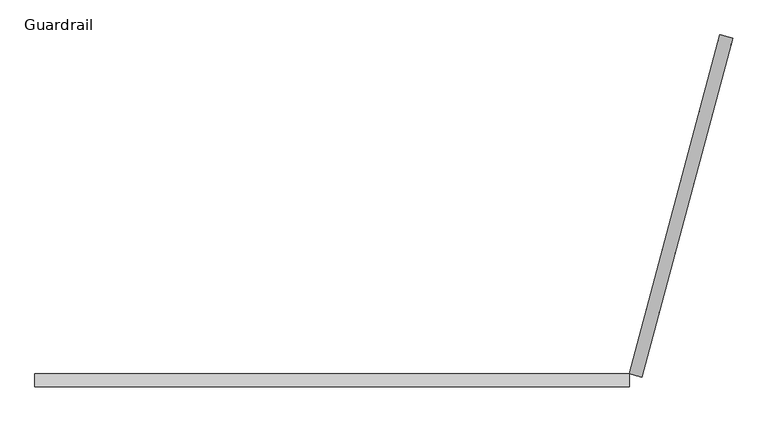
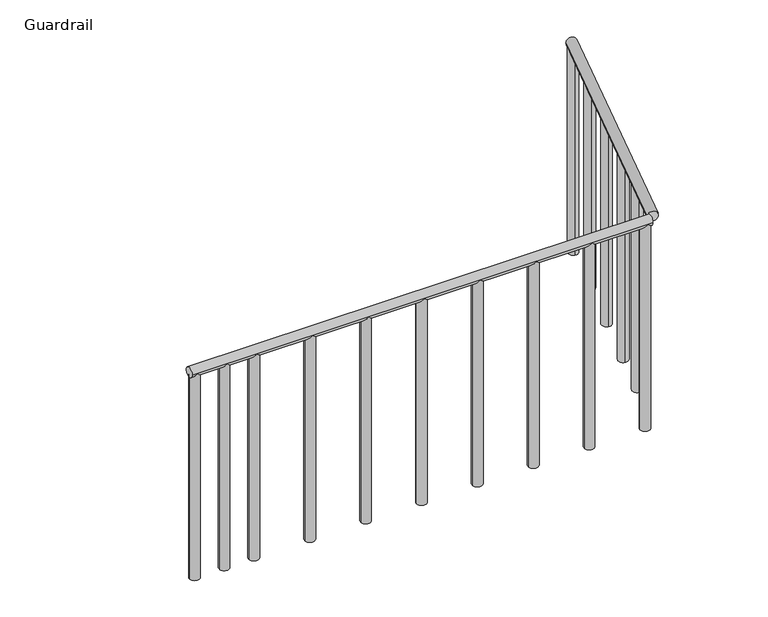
"""IFC4 building model written with IfcOpenShell, lengths in millimetres: railing geometry, Guardrail."""

from ifc_helpers import new_model, si_unit, frame, origin, place, context, project, spatial, circle_curve, ellipse_curve, source, transform, mapped, element, save
from ifc_brep_helpers import plane_surface, cylinder_surface, advanced_brep


def guardrail_706f17a5(model_context):
    return source(origin(), model_context, "Body", "AdvancedBrep", [
        advanced_brep(
        [(2223.940615, -4716.7615122, 8407.4), (2223.940615, -4665.9615122, 8407.4), (-79.7882773, -4716.7615122, 8407.4), (-79.7882773, -4665.9615122, 8407.4)],
        [
            (0, 1, circle_curve(frame((2223.940615, -4691.3615122, 8407.4), z_axis=(1.0, 0.0, 0.0), x_axis=(0.0, -1.0, 0.0)), 25.4)),
            (1, 0, circle_curve(frame((2223.940615, -4691.3615122, 8407.4), z_axis=(1.0, 0.0, 0.0), x_axis=(0.0, -1.0, 0.0)), 25.4)),
            (2, 3, circle_curve(frame((-79.7882773, -4691.3615122, 8407.4), z_axis=(-1.0, 0.0, 0.0), x_axis=(0.0, -1.0, 0.0)), 25.4)),
            (3, 2, circle_curve(frame((-79.7882773, -4691.3615122, 8407.4), z_axis=(-1.0, 0.0, 0.0), x_axis=(0.0, -1.0, 0.0)), 25.4)),
            (0, 2),
            (3, 1),
        ],
        [
            plane_surface(frame((2223.940615, -4716.7615122, 8382.0), z_axis=(1.0, 0.0, 0.0), x_axis=(0.0, 1.0, 0.0))),
            plane_surface(frame((-79.7882773, -4716.7615122, 8382.0), z_axis=(-1.0, 0.0, 0.0), x_axis=(0.0, -1.0, 0.0))),
            cylinder_surface(frame((-79.7882773, -4691.3615122, 8407.4), z_axis=(1.0, 0.0, 0.0), x_axis=(0.0, -1.0, 0.0)), 25.4),
        ],
        [
            (0, [[1, 2]]),
            (1, [[3, 4]]),
            (2, [[-1, 5, -4, 6]]),
            (2, [[-2, -6, -3, -5]]),
        ],
    ),
        advanced_brep(
        [(-28.9882773, -4691.3615122, 7315.2), (-79.7882773, -4691.3615122, 7315.2), (-79.7882773, -4691.3615122, 8385.4029547), (-76.3853226, -4678.6615122, 8385.4029547), (-32.3912321, -4678.6615122, 8385.4029547), (-28.9882773, -4691.3615122, 8385.4029547), (-32.3912321, -4704.0615122, 8385.4029547), (-76.3853226, -4704.0615122, 8385.4029547)],
        [
            (0, 1, circle_curve(frame((-54.3882773, -4691.3615122, 7315.2), z_axis=(0.0, 0.0, -1.0), x_axis=(1.0, 0.0, 0.0)), 25.4)),
            (1, 0, circle_curve(frame((-54.3882773, -4691.3615122, 7315.2), z_axis=(0.0, 0.0, -1.0), x_axis=(1.0, 0.0, 0.0)), 25.4)),
            (2, 3, circle_curve(frame((-54.3882773, -4691.3615122, 8385.4029547), z_axis=(0.0, 0.0, -1.0), x_axis=(1.0, 0.0, 0.0)), 25.4)),
            (3, 4, ellipse_curve(frame((-54.3882773, -4691.3615122, 8363.4059095), z_axis=(0.0, 0.8660254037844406, -0.4999999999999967), x_axis=(0.0, 0.4999999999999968, 0.8660254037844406)), 50.8, 25.4)),
            (4, 5, circle_curve(frame((-54.3882773, -4691.3615122, 8385.4029547), z_axis=(0.0, 0.0, -1.0), x_axis=(1.0, 0.0, 0.0)), 25.4)),
            (5, 0),
            (1, 2),
            (5, 6, circle_curve(frame((-54.3882773, -4691.3615122, 8385.4029547), z_axis=(0.0, 0.0, -1.0), x_axis=(1.0, 0.0, 0.0)), 25.4)),
            (6, 7, ellipse_curve(frame((-54.3882773, -4691.3615122, 8363.4059095), z_axis=(0.0, -0.8660254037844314, -0.5000000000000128), x_axis=(0.0, -0.5000000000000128, 0.8660254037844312)), 50.8, 25.4)),
            (7, 2, circle_curve(frame((-54.3882773, -4691.3615122, 8385.4029547), z_axis=(0.0, 0.0, -1.0), x_axis=(1.0, 0.0, 0.0)), 25.4)),
            (4, 3),
            (7, 6),
        ],
        [
            plane_surface(frame((-28.9882773, -4691.3615122, 7315.2), z_axis=(0.0, 0.0, -1.0), x_axis=(0.0, -1.0, 0.0))),
            cylinder_surface(frame((-54.3882773, -4691.3615122, 7315.2), z_axis=(0.0, 0.0, 1.0), x_axis=(1.0, 0.0, 0.0)), 25.4),
            plane_surface(frame((-3127.7882773, -4691.3615122, 8385.4029547), z_axis=(0.0, 0.0, 1.0), x_axis=(0.0, -1.0, 0.0))),
            plane_surface(frame((-3127.7882773, -4672.3115122, 8396.4014774), z_axis=(0.0, -0.8660254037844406, 0.4999999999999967), x_axis=(0.0, -0.4999999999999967, -0.8660254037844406))),
            plane_surface(frame((-3127.7882773, -4710.4115122, 8396.4014774), z_axis=(0.0, 0.8660254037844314, 0.5000000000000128), x_axis=(0.0, -0.5000000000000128, 0.8660254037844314))),
        ],
        [
            (0, [[1, 2]]),
            (1, [[3, 4, 5, 6, -2, 7]]),
            (1, [[8, 9, 10, -7, -1, -6]]),
            (2, [[-5, 11, -3, -10, 12, -8]]),
            (3, [[-4, -11]]),
            (4, [[-9, -12]]),
        ],
    ),
        advanced_brep(
        [(119.5761688, -4691.3615122, 7315.2), (68.7761688, -4691.3615122, 7315.2), (68.7761688, -4691.3615122, 8385.4029547), (72.1791236, -4678.6615122, 8385.4029547), (116.1732141, -4678.6615122, 8385.4029547), (119.5761688, -4691.3615122, 8385.4029547), (116.1732141, -4704.0615122, 8385.4029547), (72.1791236, -4704.0615122, 8385.4029547)],
        [
            (0, 1, circle_curve(frame((94.1761688, -4691.3615122, 7315.2), z_axis=(0.0, 0.0, -1.0), x_axis=(1.0, 0.0, 0.0)), 25.4)),
            (1, 0, circle_curve(frame((94.1761688, -4691.3615122, 7315.2), z_axis=(0.0, 0.0, -1.0), x_axis=(1.0, 0.0, 0.0)), 25.4)),
            (2, 3, circle_curve(frame((94.1761688, -4691.3615122, 8385.4029547), z_axis=(0.0, 0.0, -1.0), x_axis=(1.0, 0.0, 0.0)), 25.4)),
            (3, 4, ellipse_curve(frame((94.1761688, -4691.3615122, 8363.4059095), z_axis=(0.0, 0.8660254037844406, -0.4999999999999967), x_axis=(0.0, 0.4999999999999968, 0.8660254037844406)), 50.8, 25.4)),
            (4, 5, circle_curve(frame((94.1761688, -4691.3615122, 8385.4029547), z_axis=(0.0, 0.0, -1.0), x_axis=(1.0, 0.0, 0.0)), 25.4)),
            (5, 0),
            (1, 2),
            (5, 6, circle_curve(frame((94.1761688, -4691.3615122, 8385.4029547), z_axis=(0.0, 0.0, -1.0), x_axis=(1.0, 0.0, 0.0)), 25.4)),
            (6, 7, ellipse_curve(frame((94.1761688, -4691.3615122, 8363.4059095), z_axis=(0.0, -0.8660254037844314, -0.5000000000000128), x_axis=(0.0, -0.5000000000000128, 0.8660254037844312)), 50.8, 25.4)),
            (7, 2, circle_curve(frame((94.1761688, -4691.3615122, 8385.4029547), z_axis=(0.0, 0.0, -1.0), x_axis=(1.0, 0.0, 0.0)), 25.4)),
            (4, 3),
            (7, 6),
        ],
        [
            plane_surface(frame((119.5761688, -4691.3615122, 7315.2), z_axis=(0.0, 0.0, -1.0), x_axis=(0.0, -1.0, 0.0))),
            cylinder_surface(frame((94.1761688, -4691.3615122, 7315.2), z_axis=(0.0, 0.0, 1.0), x_axis=(1.0, 0.0, 0.0)), 25.4),
            plane_surface(frame((-3127.7882773, -4691.3615122, 8385.4029547), z_axis=(0.0, 0.0, 1.0), x_axis=(0.0, -1.0, 0.0))),
            plane_surface(frame((-3127.7882773, -4672.3115122, 8396.4014774), z_axis=(0.0, -0.8660254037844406, 0.4999999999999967), x_axis=(0.0, -0.4999999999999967, -0.8660254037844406))),
            plane_surface(frame((-3127.7882773, -4710.4115122, 8396.4014774), z_axis=(0.0, 0.8660254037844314, 0.5000000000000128), x_axis=(0.0, -0.5000000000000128, 0.8660254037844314))),
        ],
        [
            (0, [[1, 2]]),
            (1, [[3, 4, 5, 6, -2, 7]]),
            (1, [[8, 9, 10, -7, -1, -6]]),
            (2, [[-5, 11, -3, -10, 12, -8]]),
            (3, [[-4, -11]]),
            (4, [[-9, -12]]),
        ],
    ),
        advanced_brep(
        [(268.140615, -4691.3615122, 7315.2), (217.340615, -4691.3615122, 7315.2), (217.340615, -4691.3615122, 8385.4029547), (220.7435697, -4678.6615122, 8385.4029547), (264.7376602, -4678.6615122, 8385.4029547), (268.140615, -4691.3615122, 8385.4029547), (264.7376602, -4704.0615122, 8385.4029547), (220.7435697, -4704.0615122, 8385.4029547)],
        [
            (0, 1, circle_curve(frame((242.740615, -4691.3615122, 7315.2), z_axis=(0.0, 0.0, -1.0), x_axis=(1.0, 0.0, 0.0)), 25.4)),
            (1, 0, circle_curve(frame((242.740615, -4691.3615122, 7315.2), z_axis=(0.0, 0.0, -1.0), x_axis=(1.0, 0.0, 0.0)), 25.4)),
            (2, 3, circle_curve(frame((242.740615, -4691.3615122, 8385.4029547), z_axis=(0.0, 0.0, -1.0), x_axis=(1.0, 0.0, 0.0)), 25.4)),
            (3, 4, ellipse_curve(frame((242.740615, -4691.3615122, 8363.4059095), z_axis=(0.0, 0.8660254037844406, -0.4999999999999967), x_axis=(0.0, 0.4999999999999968, 0.8660254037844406)), 50.8, 25.4)),
            (4, 5, circle_curve(frame((242.740615, -4691.3615122, 8385.4029547), z_axis=(0.0, 0.0, -1.0), x_axis=(1.0, 0.0, 0.0)), 25.4)),
            (5, 0),
            (1, 2),
            (5, 6, circle_curve(frame((242.740615, -4691.3615122, 8385.4029547), z_axis=(0.0, 0.0, -1.0), x_axis=(1.0, 0.0, 0.0)), 25.4)),
            (6, 7, ellipse_curve(frame((242.740615, -4691.3615122, 8363.4059095), z_axis=(0.0, -0.8660254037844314, -0.5000000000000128), x_axis=(0.0, -0.5000000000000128, 0.8660254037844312)), 50.8, 25.4)),
            (7, 2, circle_curve(frame((242.740615, -4691.3615122, 8385.4029547), z_axis=(0.0, 0.0, -1.0), x_axis=(1.0, 0.0, 0.0)), 25.4)),
            (4, 3),
            (7, 6),
        ],
        [
            plane_surface(frame((268.140615, -4691.3615122, 7315.2), z_axis=(0.0, 0.0, -1.0), x_axis=(0.0, -1.0, 0.0))),
            cylinder_surface(frame((242.740615, -4691.3615122, 7315.2), z_axis=(0.0, 0.0, 1.0), x_axis=(1.0, 0.0, 0.0)), 25.4),
            plane_surface(frame((-3127.7882773, -4691.3615122, 8385.4029547), z_axis=(0.0, 0.0, 1.0), x_axis=(0.0, -1.0, 0.0))),
            plane_surface(frame((-3127.7882773, -4672.3115122, 8396.4014774), z_axis=(0.0, -0.8660254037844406, 0.4999999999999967), x_axis=(0.0, -0.4999999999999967, -0.8660254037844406))),
            plane_surface(frame((-3127.7882773, -4710.4115122, 8396.4014774), z_axis=(0.0, 0.8660254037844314, 0.5000000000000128), x_axis=(0.0, -0.5000000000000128, 0.8660254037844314))),
        ],
        [
            (0, [[1, 2]]),
            (1, [[3, 4, 5, 6, -2, 7]]),
            (1, [[8, 9, 10, -7, -1, -6]]),
            (2, [[-5, 11, -3, -10, 12, -8]]),
            (3, [[-4, -11]]),
            (4, [[-9, -12]]),
        ],
    ),
        advanced_brep(
        [(547.540615, -4691.3615122, 7315.2), (496.740615, -4691.3615122, 7315.2), (496.740615, -4691.3615122, 8385.4029547), (500.1435697, -4678.6615122, 8385.4029547), (544.1376602, -4678.6615122, 8385.4029547), (547.540615, -4691.3615122, 8385.4029547), (544.1376602, -4704.0615122, 8385.4029547), (500.1435697, -4704.0615122, 8385.4029547)],
        [
            (0, 1, circle_curve(frame((522.140615, -4691.3615122, 7315.2), z_axis=(0.0, 0.0, -1.0), x_axis=(1.0, 0.0, 0.0)), 25.4)),
            (1, 0, circle_curve(frame((522.140615, -4691.3615122, 7315.2), z_axis=(0.0, 0.0, -1.0), x_axis=(1.0, 0.0, 0.0)), 25.4)),
            (2, 3, circle_curve(frame((522.140615, -4691.3615122, 8385.4029547), z_axis=(0.0, 0.0, -1.0), x_axis=(1.0, 0.0, 0.0)), 25.4)),
            (3, 4, ellipse_curve(frame((522.140615, -4691.3615122, 8363.4059095), z_axis=(0.0, 0.8660254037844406, -0.4999999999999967), x_axis=(0.0, 0.4999999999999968, 0.8660254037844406)), 50.8, 25.4)),
            (4, 5, circle_curve(frame((522.140615, -4691.3615122, 8385.4029547), z_axis=(0.0, 0.0, -1.0), x_axis=(1.0, 0.0, 0.0)), 25.4)),
            (5, 0),
            (1, 2),
            (5, 6, circle_curve(frame((522.140615, -4691.3615122, 8385.4029547), z_axis=(0.0, 0.0, -1.0), x_axis=(1.0, 0.0, 0.0)), 25.4)),
            (6, 7, ellipse_curve(frame((522.140615, -4691.3615122, 8363.4059095), z_axis=(0.0, -0.8660254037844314, -0.5000000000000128), x_axis=(0.0, -0.5000000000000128, 0.8660254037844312)), 50.8, 25.4)),
            (7, 2, circle_curve(frame((522.140615, -4691.3615122, 8385.4029547), z_axis=(0.0, 0.0, -1.0), x_axis=(1.0, 0.0, 0.0)), 25.4)),
            (4, 3),
            (7, 6),
        ],
        [
            plane_surface(frame((547.540615, -4691.3615122, 7315.2), z_axis=(0.0, 0.0, -1.0), x_axis=(0.0, -1.0, 0.0))),
            cylinder_surface(frame((522.140615, -4691.3615122, 7315.2), z_axis=(0.0, 0.0, 1.0), x_axis=(1.0, 0.0, 0.0)), 25.4),
            plane_surface(frame((-3127.7882773, -4691.3615122, 8385.4029547), z_axis=(0.0, 0.0, 1.0), x_axis=(0.0, -1.0, 0.0))),
            plane_surface(frame((-3127.7882773, -4672.3115122, 8396.4014774), z_axis=(0.0, -0.8660254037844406, 0.4999999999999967), x_axis=(0.0, -0.4999999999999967, -0.8660254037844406))),
            plane_surface(frame((-3127.7882773, -4710.4115122, 8396.4014774), z_axis=(0.0, 0.8660254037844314, 0.5000000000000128), x_axis=(0.0, -0.5000000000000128, 0.8660254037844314))),
        ],
        [
            (0, [[1, 2]]),
            (1, [[3, 4, 5, 6, -2, 7]]),
            (1, [[8, 9, 10, -7, -1, -6]]),
            (2, [[-5, 11, -3, -10, 12, -8]]),
            (3, [[-4, -11]]),
            (4, [[-9, -12]]),
        ],
    ),
        advanced_brep(
        [(826.940615, -4691.3615122, 7315.2), (776.140615, -4691.3615122, 7315.2), (776.140615, -4691.3615122, 8385.4029547), (779.5435697, -4678.6615122, 8385.4029547), (823.5376602, -4678.6615122, 8385.4029547), (826.940615, -4691.3615122, 8385.4029547), (823.5376602, -4704.0615122, 8385.4029547), (779.5435697, -4704.0615122, 8385.4029547)],
        [
            (0, 1, circle_curve(frame((801.540615, -4691.3615122, 7315.2), z_axis=(0.0, 0.0, -1.0), x_axis=(1.0, 0.0, 0.0)), 25.4)),
            (1, 0, circle_curve(frame((801.540615, -4691.3615122, 7315.2), z_axis=(0.0, 0.0, -1.0), x_axis=(1.0, 0.0, 0.0)), 25.4)),
            (2, 3, circle_curve(frame((801.540615, -4691.3615122, 8385.4029547), z_axis=(0.0, 0.0, -1.0), x_axis=(1.0, 0.0, 0.0)), 25.4)),
            (3, 4, ellipse_curve(frame((801.540615, -4691.3615122, 8363.4059095), z_axis=(0.0, 0.8660254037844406, -0.4999999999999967), x_axis=(0.0, 0.4999999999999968, 0.8660254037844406)), 50.8, 25.4)),
            (4, 5, circle_curve(frame((801.540615, -4691.3615122, 8385.4029547), z_axis=(0.0, 0.0, -1.0), x_axis=(1.0, 0.0, 0.0)), 25.4)),
            (5, 0),
            (1, 2),
            (5, 6, circle_curve(frame((801.540615, -4691.3615122, 8385.4029547), z_axis=(0.0, 0.0, -1.0), x_axis=(1.0, 0.0, 0.0)), 25.4)),
            (6, 7, ellipse_curve(frame((801.540615, -4691.3615122, 8363.4059095), z_axis=(0.0, -0.8660254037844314, -0.5000000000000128), x_axis=(0.0, -0.5000000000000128, 0.8660254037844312)), 50.8, 25.4)),
            (7, 2, circle_curve(frame((801.540615, -4691.3615122, 8385.4029547), z_axis=(0.0, 0.0, -1.0), x_axis=(1.0, 0.0, 0.0)), 25.4)),
            (4, 3),
            (7, 6),
        ],
        [
            plane_surface(frame((826.940615, -4691.3615122, 7315.2), z_axis=(0.0, 0.0, -1.0), x_axis=(0.0, -1.0, 0.0))),
            cylinder_surface(frame((801.540615, -4691.3615122, 7315.2), z_axis=(0.0, 0.0, 1.0), x_axis=(1.0, 0.0, 0.0)), 25.4),
            plane_surface(frame((-3127.7882773, -4691.3615122, 8385.4029547), z_axis=(0.0, 0.0, 1.0), x_axis=(0.0, -1.0, 0.0))),
            plane_surface(frame((-3127.7882773, -4672.3115122, 8396.4014774), z_axis=(0.0, -0.8660254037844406, 0.4999999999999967), x_axis=(0.0, -0.4999999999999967, -0.8660254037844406))),
            plane_surface(frame((-3127.7882773, -4710.4115122, 8396.4014774), z_axis=(0.0, 0.8660254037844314, 0.5000000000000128), x_axis=(0.0, -0.5000000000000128, 0.8660254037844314))),
        ],
        [
            (0, [[1, 2]]),
            (1, [[3, 4, 5, 6, -2, 7]]),
            (1, [[8, 9, 10, -7, -1, -6]]),
            (2, [[-5, 11, -3, -10, 12, -8]]),
            (3, [[-4, -11]]),
            (4, [[-9, -12]]),
        ],
    ),
        advanced_brep(
        [(1106.340615, -4691.3615122, 7315.2), (1055.540615, -4691.3615122, 7315.2), (1055.540615, -4691.3615122, 8385.4029547), (1058.9435697, -4678.6615122, 8385.4029547), (1102.9376602, -4678.6615122, 8385.4029547), (1106.340615, -4691.3615122, 8385.4029547), (1102.9376602, -4704.0615122, 8385.4029547), (1058.9435697, -4704.0615122, 8385.4029547)],
        [
            (0, 1, circle_curve(frame((1080.940615, -4691.3615122, 7315.2), z_axis=(0.0, 0.0, -1.0), x_axis=(1.0, 0.0, 0.0)), 25.4)),
            (1, 0, circle_curve(frame((1080.940615, -4691.3615122, 7315.2), z_axis=(0.0, 0.0, -1.0), x_axis=(1.0, 0.0, 0.0)), 25.4)),
            (2, 3, circle_curve(frame((1080.940615, -4691.3615122, 8385.4029547), z_axis=(0.0, 0.0, -1.0), x_axis=(1.0, 0.0, 0.0)), 25.4)),
            (3, 4, ellipse_curve(frame((1080.940615, -4691.3615122, 8363.4059095), z_axis=(0.0, 0.8660254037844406, -0.4999999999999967), x_axis=(0.0, 0.4999999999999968, 0.8660254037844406)), 50.8, 25.4)),
            (4, 5, circle_curve(frame((1080.940615, -4691.3615122, 8385.4029547), z_axis=(0.0, 0.0, -1.0), x_axis=(1.0, 0.0, 0.0)), 25.4)),
            (5, 0),
            (1, 2),
            (5, 6, circle_curve(frame((1080.940615, -4691.3615122, 8385.4029547), z_axis=(0.0, 0.0, -1.0), x_axis=(1.0, 0.0, 0.0)), 25.4)),
            (6, 7, ellipse_curve(frame((1080.940615, -4691.3615122, 8363.4059095), z_axis=(0.0, -0.8660254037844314, -0.5000000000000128), x_axis=(0.0, -0.5000000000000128, 0.8660254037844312)), 50.8, 25.4)),
            (7, 2, circle_curve(frame((1080.940615, -4691.3615122, 8385.4029547), z_axis=(0.0, 0.0, -1.0), x_axis=(1.0, 0.0, 0.0)), 25.4)),
            (4, 3),
            (7, 6),
        ],
        [
            plane_surface(frame((1106.340615, -4691.3615122, 7315.2), z_axis=(0.0, 0.0, -1.0), x_axis=(0.0, -1.0, 0.0))),
            cylinder_surface(frame((1080.940615, -4691.3615122, 7315.2), z_axis=(0.0, 0.0, 1.0), x_axis=(1.0, 0.0, 0.0)), 25.4),
            plane_surface(frame((-3127.7882773, -4691.3615122, 8385.4029547), z_axis=(0.0, 0.0, 1.0), x_axis=(0.0, -1.0, 0.0))),
            plane_surface(frame((-3127.7882773, -4672.3115122, 8396.4014774), z_axis=(0.0, -0.8660254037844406, 0.4999999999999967), x_axis=(0.0, -0.4999999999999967, -0.8660254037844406))),
            plane_surface(frame((-3127.7882773, -4710.4115122, 8396.4014774), z_axis=(0.0, 0.8660254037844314, 0.5000000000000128), x_axis=(0.0, -0.5000000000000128, 0.8660254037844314))),
        ],
        [
            (0, [[1, 2]]),
            (1, [[3, 4, 5, 6, -2, 7]]),
            (1, [[8, 9, 10, -7, -1, -6]]),
            (2, [[-5, 11, -3, -10, 12, -8]]),
            (3, [[-4, -11]]),
            (4, [[-9, -12]]),
        ],
    ),
        advanced_brep(
        [(1385.740615, -4691.3615122, 7315.2), (1334.940615, -4691.3615122, 7315.2), (1334.940615, -4691.3615122, 8385.4029547), (1338.3435697, -4678.6615122, 8385.4029547), (1382.3376602, -4678.6615122, 8385.4029547), (1385.740615, -4691.3615122, 8385.4029547), (1382.3376602, -4704.0615122, 8385.4029547), (1338.3435697, -4704.0615122, 8385.4029547)],
        [
            (0, 1, circle_curve(frame((1360.340615, -4691.3615122, 7315.2), z_axis=(0.0, 0.0, -1.0), x_axis=(1.0, 0.0, 0.0)), 25.4)),
            (1, 0, circle_curve(frame((1360.340615, -4691.3615122, 7315.2), z_axis=(0.0, 0.0, -1.0), x_axis=(1.0, 0.0, 0.0)), 25.4)),
            (2, 3, circle_curve(frame((1360.340615, -4691.3615122, 8385.4029547), z_axis=(0.0, 0.0, -1.0), x_axis=(1.0, 0.0, 0.0)), 25.4)),
            (3, 4, ellipse_curve(frame((1360.340615, -4691.3615122, 8363.4059095), z_axis=(0.0, 0.8660254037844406, -0.4999999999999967), x_axis=(0.0, 0.4999999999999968, 0.8660254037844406)), 50.8, 25.4)),
            (4, 5, circle_curve(frame((1360.340615, -4691.3615122, 8385.4029547), z_axis=(0.0, 0.0, -1.0), x_axis=(1.0, 0.0, 0.0)), 25.4)),
            (5, 0),
            (1, 2),
            (5, 6, circle_curve(frame((1360.340615, -4691.3615122, 8385.4029547), z_axis=(0.0, 0.0, -1.0), x_axis=(1.0, 0.0, 0.0)), 25.4)),
            (6, 7, ellipse_curve(frame((1360.340615, -4691.3615122, 8363.4059095), z_axis=(0.0, -0.8660254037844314, -0.5000000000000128), x_axis=(0.0, -0.5000000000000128, 0.8660254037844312)), 50.8, 25.4)),
            (7, 2, circle_curve(frame((1360.340615, -4691.3615122, 8385.4029547), z_axis=(0.0, 0.0, -1.0), x_axis=(1.0, 0.0, 0.0)), 25.4)),
            (4, 3),
            (7, 6),
        ],
        [
            plane_surface(frame((1385.740615, -4691.3615122, 7315.2), z_axis=(0.0, 0.0, -1.0), x_axis=(0.0, -1.0, 0.0))),
            cylinder_surface(frame((1360.340615, -4691.3615122, 7315.2), z_axis=(0.0, 0.0, 1.0), x_axis=(1.0, 0.0, 0.0)), 25.4),
            plane_surface(frame((-3127.7882773, -4691.3615122, 8385.4029547), z_axis=(0.0, 0.0, 1.0), x_axis=(0.0, -1.0, 0.0))),
            plane_surface(frame((-3127.7882773, -4672.3115122, 8396.4014774), z_axis=(0.0, -0.8660254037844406, 0.4999999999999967), x_axis=(0.0, -0.4999999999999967, -0.8660254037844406))),
            plane_surface(frame((-3127.7882773, -4710.4115122, 8396.4014774), z_axis=(0.0, 0.8660254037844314, 0.5000000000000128), x_axis=(0.0, -0.5000000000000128, 0.8660254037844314))),
        ],
        [
            (0, [[1, 2]]),
            (1, [[3, 4, 5, 6, -2, 7]]),
            (1, [[8, 9, 10, -7, -1, -6]]),
            (2, [[-5, 11, -3, -10, 12, -8]]),
            (3, [[-4, -11]]),
            (4, [[-9, -12]]),
        ],
    ),
        advanced_brep(
        [(1665.140615, -4691.3615122, 7315.2), (1614.340615, -4691.3615122, 7315.2), (1614.340615, -4691.3615122, 8385.4029547), (1617.7435697, -4678.6615122, 8385.4029547), (1661.7376602, -4678.6615122, 8385.4029547), (1665.140615, -4691.3615122, 8385.4029547), (1661.7376602, -4704.0615122, 8385.4029547), (1617.7435697, -4704.0615122, 8385.4029547)],
        [
            (0, 1, circle_curve(frame((1639.740615, -4691.3615122, 7315.2), z_axis=(0.0, 0.0, -1.0), x_axis=(1.0, 0.0, 0.0)), 25.4)),
            (1, 0, circle_curve(frame((1639.740615, -4691.3615122, 7315.2), z_axis=(0.0, 0.0, -1.0), x_axis=(1.0, 0.0, 0.0)), 25.4)),
            (2, 3, circle_curve(frame((1639.740615, -4691.3615122, 8385.4029547), z_axis=(0.0, 0.0, -1.0), x_axis=(1.0, 0.0, 0.0)), 25.4)),
            (3, 4, ellipse_curve(frame((1639.740615, -4691.3615122, 8363.4059095), z_axis=(0.0, 0.8660254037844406, -0.4999999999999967), x_axis=(0.0, 0.4999999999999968, 0.8660254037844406)), 50.8, 25.4)),
            (4, 5, circle_curve(frame((1639.740615, -4691.3615122, 8385.4029547), z_axis=(0.0, 0.0, -1.0), x_axis=(1.0, 0.0, 0.0)), 25.4)),
            (5, 0),
            (1, 2),
            (5, 6, circle_curve(frame((1639.740615, -4691.3615122, 8385.4029547), z_axis=(0.0, 0.0, -1.0), x_axis=(1.0, 0.0, 0.0)), 25.4)),
            (6, 7, ellipse_curve(frame((1639.740615, -4691.3615122, 8363.4059095), z_axis=(0.0, -0.8660254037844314, -0.5000000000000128), x_axis=(0.0, -0.5000000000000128, 0.8660254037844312)), 50.8, 25.4)),
            (7, 2, circle_curve(frame((1639.740615, -4691.3615122, 8385.4029547), z_axis=(0.0, 0.0, -1.0), x_axis=(1.0, 0.0, 0.0)), 25.4)),
            (4, 3),
            (7, 6),
        ],
        [
            plane_surface(frame((1665.140615, -4691.3615122, 7315.2), z_axis=(0.0, 0.0, -1.0), x_axis=(0.0, -1.0, 0.0))),
            cylinder_surface(frame((1639.740615, -4691.3615122, 7315.2), z_axis=(0.0, 0.0, 1.0), x_axis=(1.0, 0.0, 0.0)), 25.4),
            plane_surface(frame((-3127.7882773, -4691.3615122, 8385.4029547), z_axis=(0.0, 0.0, 1.0), x_axis=(0.0, -1.0, 0.0))),
            plane_surface(frame((-3127.7882773, -4672.3115122, 8396.4014774), z_axis=(0.0, -0.8660254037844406, 0.4999999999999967), x_axis=(0.0, -0.4999999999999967, -0.8660254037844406))),
            plane_surface(frame((-3127.7882773, -4710.4115122, 8396.4014774), z_axis=(0.0, 0.8660254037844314, 0.5000000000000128), x_axis=(0.0, -0.5000000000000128, 0.8660254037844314))),
        ],
        [
            (0, [[1, 2]]),
            (1, [[3, 4, 5, 6, -2, 7]]),
            (1, [[8, 9, 10, -7, -1, -6]]),
            (2, [[-5, 11, -3, -10, 12, -8]]),
            (3, [[-4, -11]]),
            (4, [[-9, -12]]),
        ],
    ),
        advanced_brep(
        [(1944.540615, -4691.3615122, 7315.2), (1893.740615, -4691.3615122, 7315.2), (1893.740615, -4691.3615122, 8385.4029547), (1897.1435697, -4678.6615122, 8385.4029547), (1941.1376602, -4678.6615122, 8385.4029547), (1944.540615, -4691.3615122, 8385.4029547), (1941.1376602, -4704.0615122, 8385.4029547), (1897.1435697, -4704.0615122, 8385.4029547)],
        [
            (0, 1, circle_curve(frame((1919.140615, -4691.3615122, 7315.2), z_axis=(0.0, 0.0, -1.0), x_axis=(1.0, 0.0, 0.0)), 25.4)),
            (1, 0, circle_curve(frame((1919.140615, -4691.3615122, 7315.2), z_axis=(0.0, 0.0, -1.0), x_axis=(1.0, 0.0, 0.0)), 25.4)),
            (2, 3, circle_curve(frame((1919.140615, -4691.3615122, 8385.4029547), z_axis=(0.0, 0.0, -1.0), x_axis=(1.0, 0.0, 0.0)), 25.4)),
            (3, 4, ellipse_curve(frame((1919.140615, -4691.3615122, 8363.4059095), z_axis=(0.0, 0.8660254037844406, -0.4999999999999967), x_axis=(0.0, 0.4999999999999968, 0.8660254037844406)), 50.8, 25.4)),
            (4, 5, circle_curve(frame((1919.140615, -4691.3615122, 8385.4029547), z_axis=(0.0, 0.0, -1.0), x_axis=(1.0, 0.0, 0.0)), 25.4)),
            (5, 0),
            (1, 2),
            (5, 6, circle_curve(frame((1919.140615, -4691.3615122, 8385.4029547), z_axis=(0.0, 0.0, -1.0), x_axis=(1.0, 0.0, 0.0)), 25.4)),
            (6, 7, ellipse_curve(frame((1919.140615, -4691.3615122, 8363.4059095), z_axis=(0.0, -0.8660254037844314, -0.5000000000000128), x_axis=(0.0, -0.5000000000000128, 0.8660254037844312)), 50.8, 25.4)),
            (7, 2, circle_curve(frame((1919.140615, -4691.3615122, 8385.4029547), z_axis=(0.0, 0.0, -1.0), x_axis=(1.0, 0.0, 0.0)), 25.4)),
            (4, 3),
            (7, 6),
        ],
        [
            plane_surface(frame((1944.540615, -4691.3615122, 7315.2), z_axis=(0.0, 0.0, -1.0), x_axis=(0.0, -1.0, 0.0))),
            cylinder_surface(frame((1919.140615, -4691.3615122, 7315.2), z_axis=(0.0, 0.0, 1.0), x_axis=(1.0, 0.0, 0.0)), 25.4),
            plane_surface(frame((-3127.7882773, -4691.3615122, 8385.4029547), z_axis=(0.0, 0.0, 1.0), x_axis=(0.0, -1.0, 0.0))),
            plane_surface(frame((-3127.7882773, -4672.3115122, 8396.4014774), z_axis=(0.0, -0.8660254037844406, 0.4999999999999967), x_axis=(0.0, -0.4999999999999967, -0.8660254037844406))),
            plane_surface(frame((-3127.7882773, -4710.4115122, 8396.4014774), z_axis=(0.0, 0.8660254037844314, 0.5000000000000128), x_axis=(0.0, -0.5000000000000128, 0.8660254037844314))),
        ],
        [
            (0, [[1, 2]]),
            (1, [[3, 4, 5, 6, -2, 7]]),
            (1, [[8, 9, 10, -7, -1, -6]]),
            (2, [[-5, 11, -3, -10, 12, -8]]),
            (3, [[-4, -11]]),
            (4, [[-9, -12]]),
        ],
    ),
        advanced_brep(
        [(2223.940615, -4691.3615122, 7315.2), (2173.140615, -4691.3615122, 7315.2), (2173.140615, -4691.3615122, 8385.4029547), (2176.5435697, -4678.6615122, 8385.4029547), (2220.5376602, -4678.6615122, 8385.4029547), (2223.940615, -4691.3615122, 8385.4029547), (2220.5376602, -4704.0615122, 8385.4029547), (2176.5435697, -4704.0615122, 8385.4029547)],
        [
            (0, 1, circle_curve(frame((2198.540615, -4691.3615122, 7315.2), z_axis=(0.0, 0.0, -1.0), x_axis=(1.0, 0.0, 0.0)), 25.4)),
            (1, 0, circle_curve(frame((2198.540615, -4691.3615122, 7315.2), z_axis=(0.0, 0.0, -1.0), x_axis=(1.0, 0.0, 0.0)), 25.4)),
            (2, 3, circle_curve(frame((2198.540615, -4691.3615122, 8385.4029547), z_axis=(0.0, 0.0, -1.0), x_axis=(1.0, 0.0, 0.0)), 25.4)),
            (3, 4, ellipse_curve(frame((2198.540615, -4691.3615122, 8363.4059095), z_axis=(0.0, 0.8660254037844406, -0.4999999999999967), x_axis=(0.0, 0.4999999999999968, 0.8660254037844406)), 50.8, 25.4)),
            (4, 5, circle_curve(frame((2198.540615, -4691.3615122, 8385.4029547), z_axis=(0.0, 0.0, -1.0), x_axis=(1.0, 0.0, 0.0)), 25.4)),
            (5, 0),
            (1, 2),
            (5, 6, circle_curve(frame((2198.540615, -4691.3615122, 8385.4029547), z_axis=(0.0, 0.0, -1.0), x_axis=(1.0, 0.0, 0.0)), 25.4)),
            (6, 7, ellipse_curve(frame((2198.540615, -4691.3615122, 8363.4059095), z_axis=(0.0, -0.8660254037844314, -0.5000000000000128), x_axis=(0.0, -0.5000000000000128, 0.8660254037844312)), 50.8, 25.4)),
            (7, 2, circle_curve(frame((2198.540615, -4691.3615122, 8385.4029547), z_axis=(0.0, 0.0, -1.0), x_axis=(1.0, 0.0, 0.0)), 25.4)),
            (4, 3),
            (7, 6),
        ],
        [
            plane_surface(frame((2223.940615, -4691.3615122, 7315.2), z_axis=(0.0, 0.0, -1.0), x_axis=(0.0, -1.0, 0.0))),
            cylinder_surface(frame((2198.540615, -4691.3615122, 7315.2), z_axis=(0.0, 0.0, 1.0), x_axis=(1.0, 0.0, 0.0)), 25.4),
            plane_surface(frame((-3127.7882773, -4691.3615122, 8385.4029547), z_axis=(0.0, 0.0, 1.0), x_axis=(0.0, -1.0, 0.0))),
            plane_surface(frame((-3127.7882773, -4672.3115122, 8396.4014774), z_axis=(0.0, -0.8660254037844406, 0.4999999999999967), x_axis=(0.0, -0.4999999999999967, -0.8660254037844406))),
            plane_surface(frame((-3127.7882773, -4710.4115122, 8396.4014774), z_axis=(0.0, 0.8660254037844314, 0.5000000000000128), x_axis=(0.0, -0.5000000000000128, 0.8660254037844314))),
        ],
        [
            (0, [[1, 2]]),
            (1, [[3, 4, 5, 6, -2, 7]]),
            (1, [[8, 9, 10, -7, -1, -6]]),
            (2, [[-5, 11, -3, -10, 12, -8]]),
            (3, [[-4, -11]]),
            (4, [[-9, -12]]),
        ],
    ),
        advanced_brep(
        [(2624.5593324, -3367.108232, 8407.4), (2575.4903005, -3353.9602245, 8407.4), (2273.009647, -4679.1095197, 8407.4), (2223.940615, -4665.9615122, 8407.4)],
        [
            (0, 1, circle_curve(frame((2600.0248165, -3360.5342283, 8407.4), z_axis=(0.25881904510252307, 0.9659258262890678, 0.0), x_axis=(0.9659258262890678, -0.25881904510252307, 0.0)), 25.4)),
            (1, 0, circle_curve(frame((2600.0248165, -3360.5342283, 8407.4), z_axis=(0.25881904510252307, 0.9659258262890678, 0.0), x_axis=(0.9659258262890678, -0.25881904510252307, 0.0)), 25.4)),
            (2, 3, circle_curve(frame((2248.475131, -4672.5355159, 8407.4), z_axis=(-0.25881904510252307, -0.9659258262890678, 0.0), x_axis=(0.9659258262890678, -0.25881904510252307, 0.0)), 25.4)),
            (3, 2, circle_curve(frame((2248.475131, -4672.5355159, 8407.4), z_axis=(-0.25881904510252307, -0.9659258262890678, 0.0), x_axis=(0.9659258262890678, -0.25881904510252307, 0.0)), 25.4)),
            (0, 2),
            (3, 1),
        ],
        [
            plane_surface(frame((2624.5593324, -3367.108232, 8382.0), z_axis=(0.25881904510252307, 0.9659258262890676, 0.0), x_axis=(0.9659258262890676, -0.25881904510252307, 0.0))),
            plane_surface(frame((2273.009647, -4679.1095197, 8382.0), z_axis=(-0.25881904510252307, -0.9659258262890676, 0.0), x_axis=(0.9659258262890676, -0.25881904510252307, 0.0))),
            cylinder_surface(frame((2248.475131, -4672.5355159, 8407.4), z_axis=(0.25881904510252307, 0.9659258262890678, 0.0), x_axis=(0.9659258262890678, -0.25881904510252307, 0.0)), 25.4),
        ],
        [
            (0, [[1, 2]]),
            (1, [[3, 4]]),
            (2, [[-1, 5, -4, 6]]),
            (2, [[-2, -6, -3, -5]]),
        ],
    ),
        advanced_brep(
        [(2322.3529157, -4396.8198699, 7315.2), (2309.2049082, -4445.8889019, 7315.2), (2309.2049082, -4445.8889019, 8385.4029547), (2297.8183997, -4439.3148981, 8385.4029547), (2309.2049082, -4396.8198699, 8385.4029547), (2322.3529157, -4396.8198699, 8385.4029547), (2333.7394242, -4403.3938737, 8385.4029547), (2322.3529157, -4445.8889019, 8385.4029547)],
        [
            (0, 1, circle_curve(frame((2315.7789119, -4421.3543859, 7315.2), z_axis=(0.0, 0.0, -1.0), x_axis=(0.25881904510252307, 0.9659258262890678, 0.0)), 25.4)),
            (1, 0, circle_curve(frame((2315.7789119, -4421.3543859, 7315.2), z_axis=(0.0, 0.0, -1.0), x_axis=(0.25881904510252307, 0.9659258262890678, 0.0)), 25.4)),
            (2, 3, circle_curve(frame((2315.7789119, -4421.3543859, 8385.4029547), z_axis=(0.0, 0.0, -1.0), x_axis=(0.25881904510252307, 0.9659258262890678, 0.0)), 25.4)),
            (3, 4, ellipse_curve(frame((2315.7789119, -4421.3543859, 8363.4059095), z_axis=(-0.8365163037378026, 0.22414386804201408, -0.5000000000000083), x_axis=(-0.48296291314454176, 0.12940952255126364, 0.8660254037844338)), 50.8, 25.4)),
            (4, 5, circle_curve(frame((2315.7789119, -4421.3543859, 8385.4029547), z_axis=(0.0, 0.0, -1.0), x_axis=(0.25881904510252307, 0.9659258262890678, 0.0)), 25.4)),
            (5, 0),
            (1, 2),
            (5, 6, circle_curve(frame((2315.7789119, -4421.3543859, 8385.4029547), z_axis=(0.0, 0.0, -1.0), x_axis=(0.25881904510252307, 0.9659258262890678, 0.0)), 25.4)),
            (6, 7, ellipse_curve(frame((2315.7789119, -4421.3543859, 8363.4059095), z_axis=(0.8365163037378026, -0.22414386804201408, -0.5000000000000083), x_axis=(0.48296291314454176, -0.12940952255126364, 0.8660254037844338)), 50.8, 25.4)),
            (7, 2, circle_curve(frame((2315.7789119, -4421.3543859, 8385.4029547), z_axis=(0.0, 0.0, -1.0), x_axis=(0.25881904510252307, 0.9659258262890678, 0.0)), 25.4)),
            (4, 3),
            (7, 6),
        ],
        [
            plane_surface(frame((2322.3529157, -4396.8198699, 7315.2), z_axis=(0.0, 0.0, -1.0000000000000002), x_axis=(0.9659258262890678, -0.25881904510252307, 0.0))),
            cylinder_surface(frame((2315.7789119, -4421.3543859, 7315.2), z_axis=(0.0, 0.0, 1.0000000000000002), x_axis=(0.25881904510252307, 0.9659258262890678, 0.0)), 25.4),
            plane_surface(frame((1459.5946815, -7616.6774344, 8385.4029547), z_axis=(0.0, 0.0, 1.0000000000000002), x_axis=(0.9659258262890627, -0.25881904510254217, 0.0))),
            plane_surface(frame((1441.1937945, -7611.7469316, 8396.4014774), z_axis=(0.8365163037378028, -0.22414386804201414, 0.5000000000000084), x_axis=(0.48296291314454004, -0.12940952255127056, -0.8660254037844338))),
            plane_surface(frame((1477.9955685, -7621.6079373, 8396.4014774), z_axis=(-0.8365163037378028, 0.22414386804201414, 0.5000000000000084), x_axis=(0.48296291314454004, -0.12940952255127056, 0.8660254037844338))),
        ],
        [
            (0, [[1, 2]]),
            (1, [[3, 4, 5, 6, -2, 7]]),
            (1, [[8, 9, 10, -7, -1, -6]]),
            (2, [[-5, 11, -3, -10, 12, -8]]),
            (3, [[-4, -11]]),
            (4, [[-9, -12]]),
        ],
    ),
        advanced_brep(
        [(2383.0826929, -4170.1732559, 7315.2), (2369.9346854, -4219.2422879, 7315.2), (2369.9346854, -4219.2422879, 8385.4029547), (2358.5481769, -4212.6682841, 8385.4029547), (2369.9346854, -4170.1732559, 8385.4029547), (2383.0826929, -4170.1732559, 8385.4029547), (2394.4692013, -4176.7472596, 8385.4029547), (2383.0826928, -4219.2422879, 8385.4029547)],
        [
            (0, 1, circle_curve(frame((2376.5086891, -4194.7077719, 7315.2), z_axis=(0.0, 0.0, -1.0), x_axis=(0.25881904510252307, 0.9659258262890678, 0.0)), 25.4)),
            (1, 0, circle_curve(frame((2376.5086891, -4194.7077719, 7315.2), z_axis=(0.0, 0.0, -1.0), x_axis=(0.25881904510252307, 0.9659258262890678, 0.0)), 25.4)),
            (2, 3, circle_curve(frame((2376.5086891, -4194.7077719, 8385.4029547), z_axis=(0.0, 0.0, -1.0), x_axis=(0.25881904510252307, 0.9659258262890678, 0.0)), 25.4)),
            (3, 4, ellipse_curve(frame((2376.5086891, -4194.7077719, 8363.4059095), z_axis=(-0.8365163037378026, 0.22414386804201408, -0.5000000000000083), x_axis=(-0.48296291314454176, 0.12940952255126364, 0.8660254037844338)), 50.8, 25.4)),
            (4, 5, circle_curve(frame((2376.5086891, -4194.7077719, 8385.4029547), z_axis=(0.0, 0.0, -1.0), x_axis=(0.25881904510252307, 0.9659258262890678, 0.0)), 25.4)),
            (5, 0),
            (1, 2),
            (5, 6, circle_curve(frame((2376.5086891, -4194.7077719, 8385.4029547), z_axis=(0.0, 0.0, -1.0), x_axis=(0.25881904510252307, 0.9659258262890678, 0.0)), 25.4)),
            (6, 7, ellipse_curve(frame((2376.5086891, -4194.7077719, 8363.4059095), z_axis=(0.8365163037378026, -0.22414386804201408, -0.5000000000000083), x_axis=(0.48296291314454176, -0.12940952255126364, 0.8660254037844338)), 50.8, 25.4)),
            (7, 2, circle_curve(frame((2376.5086891, -4194.7077719, 8385.4029547), z_axis=(0.0, 0.0, -1.0), x_axis=(0.25881904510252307, 0.9659258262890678, 0.0)), 25.4)),
            (3, 4),
            (7, 6),
        ],
        [
            plane_surface(frame((2383.0826929, -4170.1732559, 7315.2), z_axis=(0.0, 0.0, -1.0000000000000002), x_axis=(0.9659258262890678, -0.25881904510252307, 0.0))),
            cylinder_surface(frame((2376.5086891, -4194.7077719, 7315.2), z_axis=(0.0, 0.0, 1.0000000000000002), x_axis=(0.25881904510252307, 0.9659258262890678, 0.0)), 25.4),
            plane_surface(frame((1441.1937945, -7611.7469316, 8396.4014774), z_axis=(0.8365163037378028, -0.22414386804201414, 0.5000000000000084), x_axis=(0.48296291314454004, -0.12940952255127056, -0.8660254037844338))),
            plane_surface(frame((1459.5946815, -7616.6774344, 8385.4029547), z_axis=(0.0, 0.0, 1.0000000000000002), x_axis=(0.9659258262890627, -0.25881904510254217, 0.0))),
            plane_surface(frame((1477.9955685, -7621.6079373, 8396.4014774), z_axis=(-0.8365163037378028, 0.22414386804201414, 0.5000000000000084), x_axis=(0.48296291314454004, -0.12940952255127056, 0.8660254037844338))),
        ],
        [
            (0, [[1, 2]]),
            (1, [[3, 4, 5, 6, -2, 7]]),
            (1, [[8, 9, 10, -7, -1, -6]]),
            (2, [[-4, 11]]),
            (3, [[-5, -11, -3, -10, 12, -8]]),
            (4, [[-9, -12]]),
        ],
    ),
        advanced_brep(
        [(2455.3967341, -3900.29358, 7315.2), (2442.2487266, -3949.362612, 7315.2), (2442.2487266, -3949.362612, 8385.4029547), (2430.8622181, -3942.7886083, 8385.4029547), (2442.2487266, -3900.29358, 8385.4029547), (2455.3967341, -3900.29358, 8385.4029547), (2466.7832425, -3906.8675838, 8385.4029547), (2455.3967341, -3949.362612, 8385.4029547)],
        [
            (0, 1, circle_curve(frame((2448.8227303, -3924.828096, 7315.2), z_axis=(0.0, 0.0, -1.0), x_axis=(0.25881904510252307, 0.9659258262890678, 0.0)), 25.4)),
            (1, 0, circle_curve(frame((2448.8227303, -3924.828096, 7315.2), z_axis=(0.0, 0.0, -1.0), x_axis=(0.25881904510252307, 0.9659258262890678, 0.0)), 25.4)),
            (2, 3, circle_curve(frame((2448.8227303, -3924.828096, 8385.4029547), z_axis=(0.0, 0.0, -1.0), x_axis=(0.25881904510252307, 0.9659258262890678, 0.0)), 25.4)),
            (3, 4, ellipse_curve(frame((2448.8227303, -3924.828096, 8363.4059095), z_axis=(-0.8365163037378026, 0.22414386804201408, -0.5000000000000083), x_axis=(-0.48296291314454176, 0.12940952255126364, 0.8660254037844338)), 50.8, 25.4)),
            (4, 5, circle_curve(frame((2448.8227303, -3924.828096, 8385.4029547), z_axis=(0.0, 0.0, -1.0), x_axis=(0.25881904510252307, 0.9659258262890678, 0.0)), 25.4)),
            (5, 0),
            (1, 2),
            (5, 6, circle_curve(frame((2448.8227303, -3924.828096, 8385.4029547), z_axis=(0.0, 0.0, -1.0), x_axis=(0.25881904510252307, 0.9659258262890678, 0.0)), 25.4)),
            (6, 7, ellipse_curve(frame((2448.8227303, -3924.828096, 8363.4059095), z_axis=(0.8365163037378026, -0.22414386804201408, -0.5000000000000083), x_axis=(0.48296291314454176, -0.12940952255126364, 0.8660254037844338)), 50.8, 25.4)),
            (7, 2, circle_curve(frame((2448.8227303, -3924.828096, 8385.4029547), z_axis=(0.0, 0.0, -1.0), x_axis=(0.25881904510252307, 0.9659258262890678, 0.0)), 25.4)),
            (3, 4),
            (7, 6),
        ],
        [
            plane_surface(frame((2455.3967341, -3900.29358, 7315.2), z_axis=(0.0, 0.0, -1.0000000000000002), x_axis=(0.9659258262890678, -0.25881904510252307, 0.0))),
            cylinder_surface(frame((2448.8227303, -3924.828096, 7315.2), z_axis=(0.0, 0.0, 1.0000000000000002), x_axis=(0.25881904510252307, 0.9659258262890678, 0.0)), 25.4),
            plane_surface(frame((1441.1937945, -7611.7469316, 8396.4014774), z_axis=(0.8365163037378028, -0.22414386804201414, 0.5000000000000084), x_axis=(0.48296291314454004, -0.12940952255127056, -0.8660254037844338))),
            plane_surface(frame((1459.5946815, -7616.6774344, 8385.4029547), z_axis=(0.0, 0.0, 1.0000000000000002), x_axis=(0.9659258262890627, -0.25881904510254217, 0.0))),
            plane_surface(frame((1477.9955685, -7621.6079373, 8396.4014774), z_axis=(-0.8365163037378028, 0.22414386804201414, 0.5000000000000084), x_axis=(0.48296291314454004, -0.12940952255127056, 0.8660254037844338))),
        ],
        [
            (0, [[1, 2]]),
            (1, [[3, 4, 5, 6, -2, 7]]),
            (1, [[8, 9, 10, -7, -1, -6]]),
            (2, [[-4, 11]]),
            (3, [[-5, -11, -3, -10, 12, -8]]),
            (4, [[-9, -12]]),
        ],
    ),
        advanced_brep(
        [(2527.7107753, -3630.4139041, 7315.2), (2514.5627678, -3679.4829361, 7315.2), (2514.5627678, -3679.4829361, 8385.4029547), (2503.1762593, -3672.9089324, 8385.4029547), (2514.5627678, -3630.4139041, 8385.4029547), (2527.7107753, -3630.4139041, 8385.4029547), (2539.0972838, -3636.9879079, 8385.4029547), (2527.7107753, -3679.4829361, 8385.4029547)],
        [
            (0, 1, circle_curve(frame((2521.1367715, -3654.9484201, 7315.2), z_axis=(0.0, 0.0, -1.0), x_axis=(0.25881904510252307, 0.9659258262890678, 0.0)), 25.4)),
            (1, 0, circle_curve(frame((2521.1367715, -3654.9484201, 7315.2), z_axis=(0.0, 0.0, -1.0), x_axis=(0.25881904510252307, 0.9659258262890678, 0.0)), 25.4)),
            (2, 3, circle_curve(frame((2521.1367715, -3654.9484201, 8385.4029547), z_axis=(0.0, 0.0, -1.0), x_axis=(0.25881904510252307, 0.9659258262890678, 0.0)), 25.4)),
            (3, 4, ellipse_curve(frame((2521.1367715, -3654.9484201, 8363.4059095), z_axis=(-0.8365163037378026, 0.22414386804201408, -0.5000000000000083), x_axis=(-0.48296291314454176, 0.12940952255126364, 0.8660254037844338)), 50.8, 25.4)),
            (4, 5, circle_curve(frame((2521.1367715, -3654.9484201, 8385.4029547), z_axis=(0.0, 0.0, -1.0), x_axis=(0.25881904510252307, 0.9659258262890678, 0.0)), 25.4)),
            (5, 0),
            (1, 2),
            (5, 6, circle_curve(frame((2521.1367715, -3654.9484201, 8385.4029547), z_axis=(0.0, 0.0, -1.0), x_axis=(0.25881904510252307, 0.9659258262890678, 0.0)), 25.4)),
            (6, 7, ellipse_curve(frame((2521.1367715, -3654.9484201, 8363.4059095), z_axis=(0.8365163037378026, -0.22414386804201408, -0.5000000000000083), x_axis=(0.48296291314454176, -0.12940952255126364, 0.8660254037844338)), 50.8, 25.4)),
            (7, 2, circle_curve(frame((2521.1367715, -3654.9484201, 8385.4029547), z_axis=(0.0, 0.0, -1.0), x_axis=(0.25881904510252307, 0.9659258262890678, 0.0)), 25.4)),
            (3, 4),
            (7, 6),
        ],
        [
            plane_surface(frame((2527.7107753, -3630.4139041, 7315.2), z_axis=(0.0, 0.0, -1.0000000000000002), x_axis=(0.9659258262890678, -0.25881904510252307, 0.0))),
            cylinder_surface(frame((2521.1367715, -3654.9484201, 7315.2), z_axis=(0.0, 0.0, 1.0000000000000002), x_axis=(0.25881904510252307, 0.9659258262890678, 0.0)), 25.4),
            plane_surface(frame((1441.1937945, -7611.7469316, 8396.4014774), z_axis=(0.8365163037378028, -0.22414386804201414, 0.5000000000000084), x_axis=(0.48296291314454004, -0.12940952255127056, -0.8660254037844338))),
            plane_surface(frame((1459.5946815, -7616.6774344, 8385.4029547), z_axis=(0.0, 0.0, 1.0000000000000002), x_axis=(0.9659258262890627, -0.25881904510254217, 0.0))),
            plane_surface(frame((1477.9955685, -7621.6079373, 8396.4014774), z_axis=(-0.8365163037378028, 0.22414386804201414, 0.5000000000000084), x_axis=(0.48296291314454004, -0.12940952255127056, 0.8660254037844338))),
        ],
        [
            (0, [[1, 2]]),
            (1, [[3, 4, 5, 6, -2, 7]]),
            (1, [[8, 9, 10, -7, -1, -6]]),
            (2, [[-4, 11]]),
            (3, [[-5, -11, -3, -10, 12, -8]]),
            (4, [[-9, -12]]),
        ],
    ),
        advanced_brep(
        [(2600.0248165, -3360.5342283, 7315.2), (2586.876809, -3409.6032603, 7315.2), (2586.876809, -3409.6032603, 8385.4029547), (2575.4903005, -3403.0292565, 8385.4029547), (2586.876809, -3360.5342283, 8385.4029547), (2600.0248165, -3360.5342283, 8385.4029547), (2611.411325, -3367.108232, 8385.4029547), (2600.0248165, -3409.6032603, 8385.4029547)],
        [
            (0, 1, circle_curve(frame((2593.4508127, -3385.0687443, 7315.2), z_axis=(0.0, 0.0, -1.0), x_axis=(0.25881904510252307, 0.9659258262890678, 0.0)), 25.4)),
            (1, 0, circle_curve(frame((2593.4508127, -3385.0687443, 7315.2), z_axis=(0.0, 0.0, -1.0), x_axis=(0.25881904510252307, 0.9659258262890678, 0.0)), 25.4)),
            (2, 3, circle_curve(frame((2593.4508127, -3385.0687443, 8385.4029547), z_axis=(0.0, 0.0, -1.0), x_axis=(0.25881904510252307, 0.9659258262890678, 0.0)), 25.4)),
            (3, 4, ellipse_curve(frame((2593.4508127, -3385.0687443, 8363.4059095), z_axis=(-0.8365163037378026, 0.22414386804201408, -0.5000000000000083), x_axis=(-0.48296291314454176, 0.12940952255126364, 0.8660254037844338)), 50.8, 25.4)),
            (4, 5, circle_curve(frame((2593.4508127, -3385.0687443, 8385.4029547), z_axis=(0.0, 0.0, -1.0), x_axis=(0.25881904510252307, 0.9659258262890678, 0.0)), 25.4)),
            (5, 0),
            (1, 2),
            (5, 6, circle_curve(frame((2593.4508127, -3385.0687443, 8385.4029547), z_axis=(0.0, 0.0, -1.0), x_axis=(0.25881904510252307, 0.9659258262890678, 0.0)), 25.4)),
            (6, 7, ellipse_curve(frame((2593.4508127, -3385.0687443, 8363.4059095), z_axis=(0.8365163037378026, -0.22414386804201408, -0.5000000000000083), x_axis=(0.48296291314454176, -0.12940952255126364, 0.8660254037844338)), 50.8, 25.4)),
            (7, 2, circle_curve(frame((2593.4508127, -3385.0687443, 8385.4029547), z_axis=(0.0, 0.0, -1.0), x_axis=(0.25881904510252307, 0.9659258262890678, 0.0)), 25.4)),
            (3, 4),
            (7, 6),
        ],
        [
            plane_surface(frame((2600.0248165, -3360.5342283, 7315.2), z_axis=(0.0, 0.0, -1.0000000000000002), x_axis=(0.9659258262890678, -0.25881904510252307, 0.0))),
            cylinder_surface(frame((2593.4508127, -3385.0687443, 7315.2), z_axis=(0.0, 0.0, 1.0000000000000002), x_axis=(0.25881904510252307, 0.9659258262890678, 0.0)), 25.4),
            plane_surface(frame((1441.1937945, -7611.7469316, 8396.4014774), z_axis=(0.8365163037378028, -0.22414386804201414, 0.5000000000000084), x_axis=(0.48296291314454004, -0.12940952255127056, -0.8660254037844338))),
            plane_surface(frame((1459.5946815, -7616.6774344, 8385.4029547), z_axis=(0.0, 0.0, 1.0000000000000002), x_axis=(0.9659258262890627, -0.25881904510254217, 0.0))),
            plane_surface(frame((1477.9955685, -7621.6079373, 8396.4014774), z_axis=(-0.8365163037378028, 0.22414386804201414, 0.5000000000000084), x_axis=(0.48296291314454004, -0.12940952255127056, 0.8660254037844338))),
        ],
        [
            (0, [[1, 2]]),
            (1, [[3, 4, 5, 6, -2, 7]]),
            (1, [[8, 9, 10, -7, -1, -6]]),
            (2, [[-4, 11]]),
            (3, [[-5, -11, -3, -10, 12, -8]]),
            (4, [[-9, -12]]),
        ],
    ),
    ])


if __name__ == "__main__":
    model = new_model("IFC4")
    model_context = context("Model", 3, world=origin())
    ifc_project = project(units=[si_unit("LENGTHUNIT", "METRE", prefix="MILLI")], contexts=[model_context])
    site = spatial("IfcSite", under=ifc_project)
    building = spatial("IfcBuilding", under=site)
    placement = place(None, origin())
    guardrail_shape = guardrail_706f17a5(model_context)
    element("IfcRailing", 1, ObjectType="Guardrail", at=placement, inside=building, context=model_context, shape_type="MappedRepresentation", body=[
        mapped(guardrail_shape, transform((0.0, 0.0, 0.0), x_axis=(1.0, 0.0, 0.0), y_axis=(0.0, 1.0, 0.0), z_axis=(0.0, 0.0, 1.0))),
    ])
    save(model, "model.ifc")
